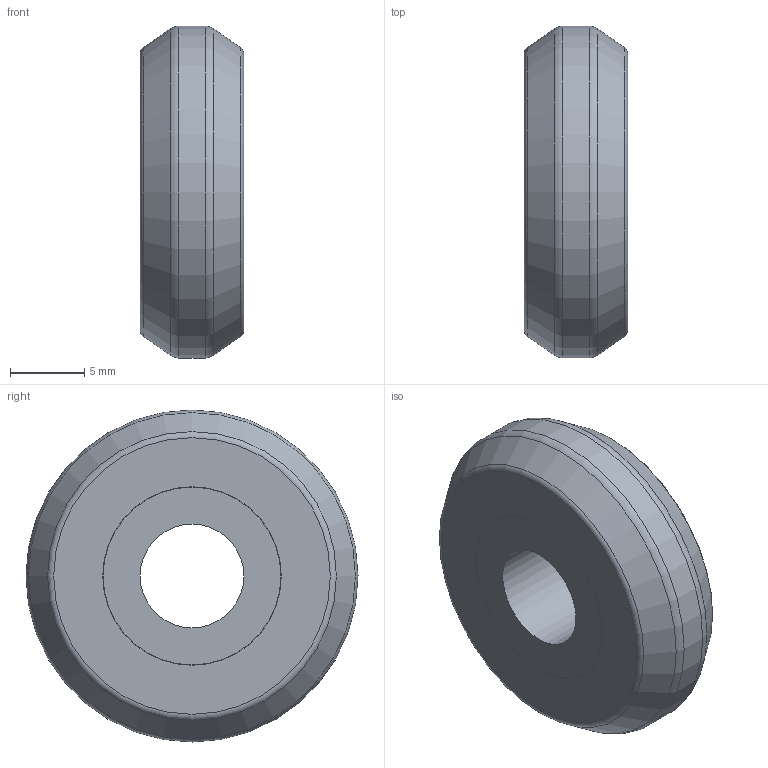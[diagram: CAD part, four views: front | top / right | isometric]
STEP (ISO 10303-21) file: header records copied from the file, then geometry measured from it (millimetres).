
FILE_DESCRIPTION( ( 'STEP AP203' ), '1' );
FILE_NAME( 'C:/Temp/Ganter_Step_05_03_2020/data/3_8/gn2426/Track GN 2426-28-B-2RS.stp', '2020-03-12T15:07:21', ( 'License CC BY-ND 4.0' ), ( 'CADENAS' ), ' ', 'PARTsolutions', ' ' );
FILE_SCHEMA( ( 'CONFIG_CONTROL_DESIGN' ) );
Length unit declared in the file: millimetre
Products named in the file (1): _Track GN 2426-28-B-2RS
Bounding box: 7 x 22.4 x 22.4 mm (x, y, z)
Volume: 2238.4 mm3; surface area: 1185.6 mm2
Topology: 1 solids, 1 shells, 18 faces, 30 edges, 18 vertices
Faces by surface type: plane 6, cylinder 6, torus 4, cone 2
Full cylindrical faces by diameter (mm): 7 x1, 12 x2, 12.04 x2, 22.4 x1
Entity records: 412 total; most frequent: DIRECTION 74, CARTESIAN_POINT 55, AXIS2_PLACEMENT_3D 37, EDGE_LOOP 36, ORIENTED_EDGE 36, FACE_OUTER_BOUND 28, ADVANCED_FACE 18, EDGE_CURVE 18
